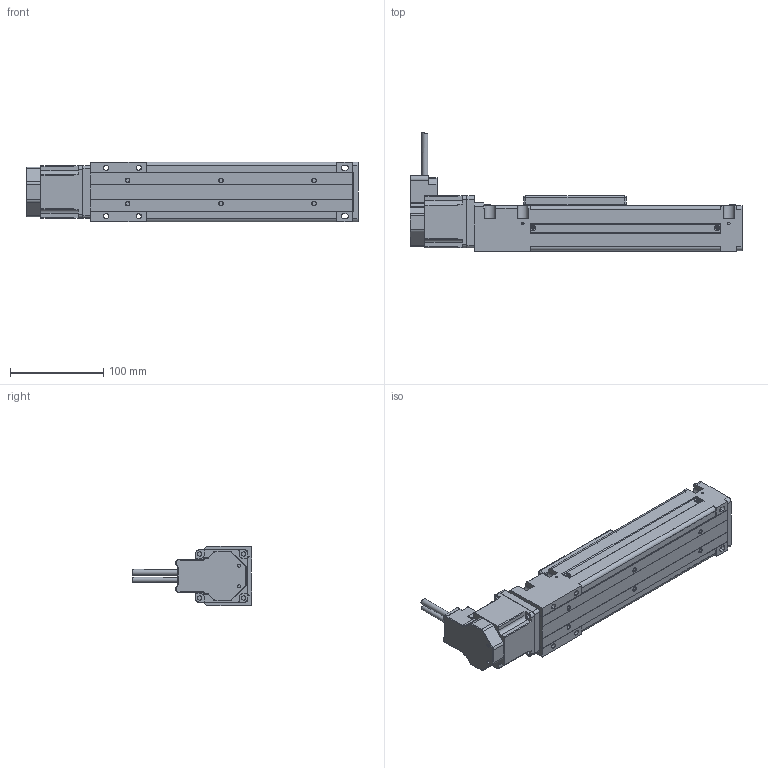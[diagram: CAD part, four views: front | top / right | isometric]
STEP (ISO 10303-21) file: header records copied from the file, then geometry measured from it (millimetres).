
FILE_DESCRIPTION(/* description */ ('Alibre Inc.'),/* implementation_level */ '2;1');
FILE_NAME(/* name */ 'export0',/* time_stamp */ '2010-04-01T10:35:40-04:00',/* author */ (''),/* organization */ (''),/* preprocessor_version */ 'ST-DEVELOPER v10',/* originating_system */ 'Alibre',/* authorisation */ '');
FILE_SCHEMA (('CONFIG_CONTROL_DESIGN'));
Length unit declared in the file: millimetre
Products named in the file (6): 1; 2; ID_1; ID_2; ID_3
Bounding box: 356 x 127.68 x 64 mm (x, y, z)
Volume: 581631.4 mm3; surface area: 199079.7 mm2
Topology: 4 solids, 4 shells, 798 faces, 2104 edges, 1322 vertices
Faces by surface type: plane 492, cylinder 204, cone 70, torus 28, sphere 4
Full cylindrical faces by diameter (mm): 3.5 x2, 4.5 x4, 5.5 x1, 6.5 x1, 8 x1, 38.13 x1, 38.15 x1
Entity records: 24488 total; most frequent: CARTESIAN_POINT 4468, ORIENTED_EDGE 4140, DIRECTION 3648, EDGE_CURVE 2070, VECTOR 1510, LINE 1510, AXIS2_PLACEMENT_3D 1325, VERTEX_POINT 1315
